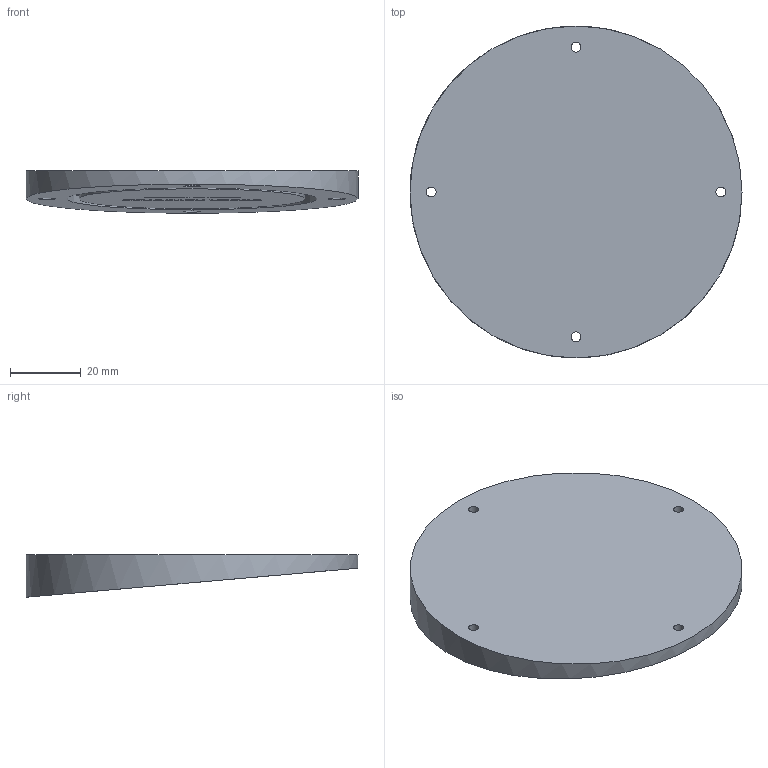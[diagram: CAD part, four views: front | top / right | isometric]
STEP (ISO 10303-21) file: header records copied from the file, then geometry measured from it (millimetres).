
FILE_DESCRIPTION(('Open CASCADE Model'),'2;1');
FILE_NAME('Open CASCADE Shape Model','2026-07-17T20:14:26',('Author'),( 'Open CASCADE'),'Open CASCADE STEP processor 7.7','Open CASCADE 7.7' ,'Unknown');
FILE_SCHEMA(('AUTOMOTIVE_DESIGN { 1 0 10303 214 1 1 1 1 }'));
Length unit declared in the file: millimetre
Products named in the file (1): Open CASCADE STEP translator 7.7 2
Bounding box: 94 x 94 x 12 mm (x, y, z)
Volume: 52830.6 mm3; surface area: 17541.9 mm2
Topology: 1 solids, 1 shells, 621 faces, 1692 edges, 1128 vertices
Faces by surface type: extrusion 314, plane 296, cylinder 11
Full cylindrical faces by diameter (mm): 2.8 x4, 5 x4, 63.9 x1, 71.1 x1, 94 x1
Entity records: 41982 total; most frequent: CARTESIAN_POINT 10150, DIRECTION 4752, VECTOR 4050, LINE 3736, ORIENTED_EDGE 3384, PCURVE 3384, DEFINITIONAL_REPRESENTATION 3384, EDGE_CURVE 1692
